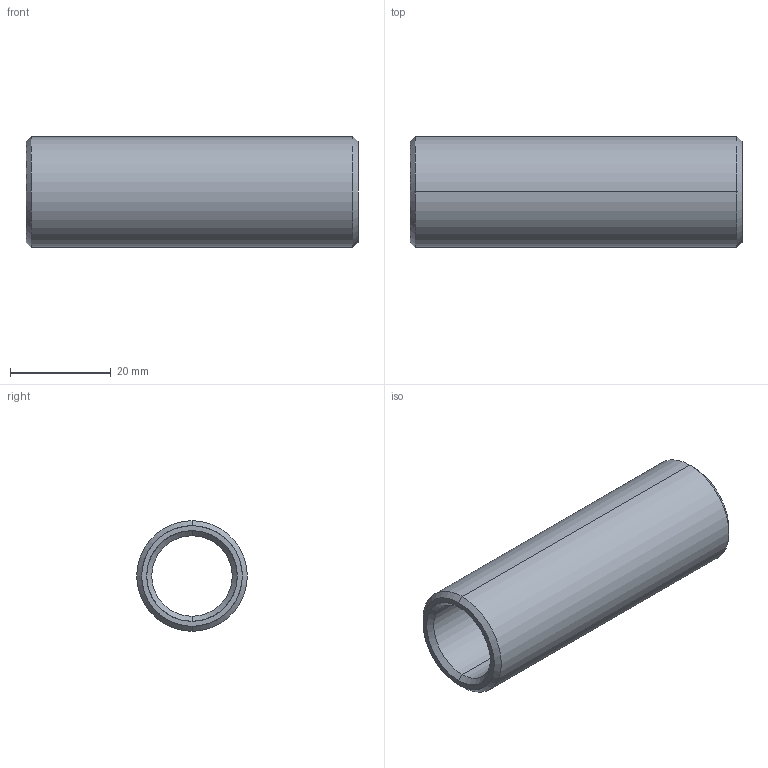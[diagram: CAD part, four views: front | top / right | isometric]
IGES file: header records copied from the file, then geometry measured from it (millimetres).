
Start section: START RECORD GO HERE.
Global section: file name: 352-16X66.igs; native system: DASSAULT SYSTEMES CATIA V5 R20 - www.3ds.com; preprocessor: CATIA Version 5 Release 20 ; author: Utente; organization: NB04-ASUS; date: 20210410.110332; units: millimetre
Bounding box: 66 x 22 x 22 mm (x, y, z)
Surface area: 8104.4 mm2 (no closed solid volume)
Topology: 0 solids, 0 shells, 14 faces, 88 edges, 88 vertices
Faces by surface type: revolution 12, plane 2
